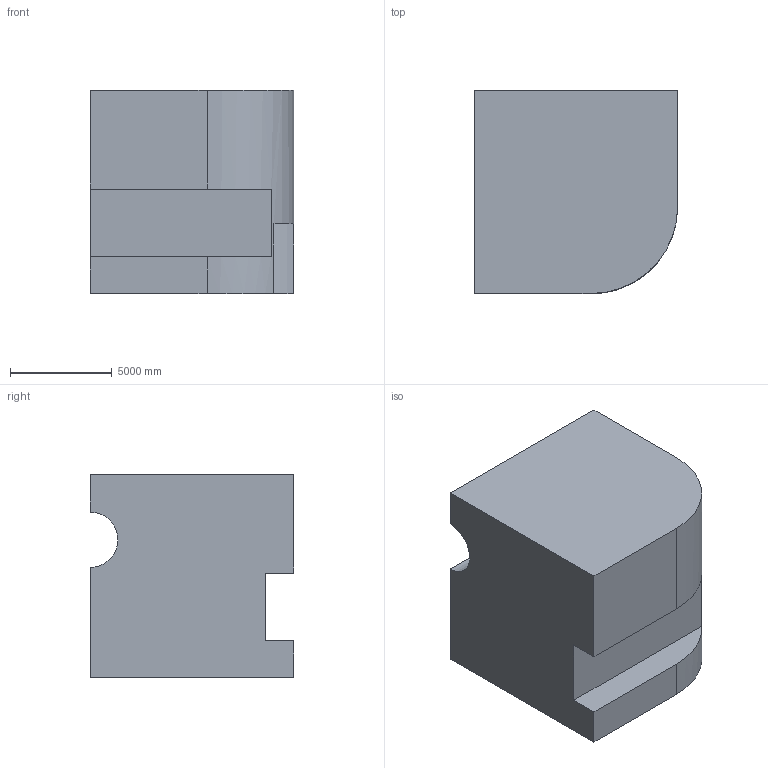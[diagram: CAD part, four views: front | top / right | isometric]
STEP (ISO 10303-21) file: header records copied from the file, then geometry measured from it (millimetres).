
FILE_DESCRIPTION (( 'STEP AP203' ), '1' );
FILE_NAME ('1376.STEP', '2022-08-18T14:07:25', ( 'user' ), ( '' ), 'SwSTEP 2.0', 'SolidWorks 2021', '' );
FILE_SCHEMA (( 'CONFIG_CONTROL_DESIGN' ));
Length unit declared in the file: centimetre
Products named in the file (1): 1376
Bounding box: 10000 x 10000 x 10000 mm (x, y, z)
Volume: 870545317834.6 mm3; surface area: 603990733.5 mm2
Topology: 1 solids, 1 shells, 17 faces, 45 edges, 30 vertices
Faces by surface type: plane 13, cylinder 4
Entity records: 607 total; most frequent: CARTESIAN_POINT 93, DIRECTION 92, ORIENTED_EDGE 90, EDGE_CURVE 45, VECTOR 34, LINE 34, VERTEX_POINT 30, AXIS2_PLACEMENT_3D 29
